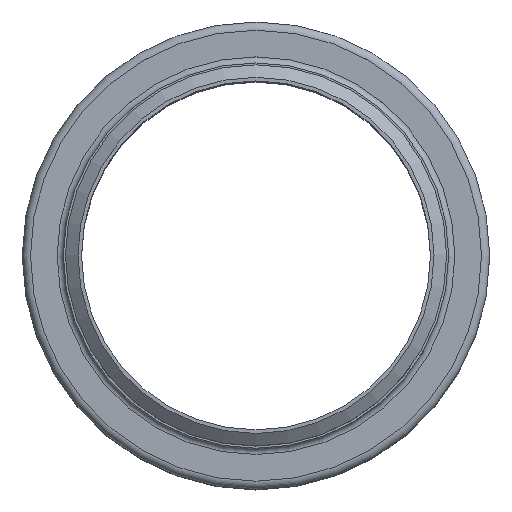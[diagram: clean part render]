
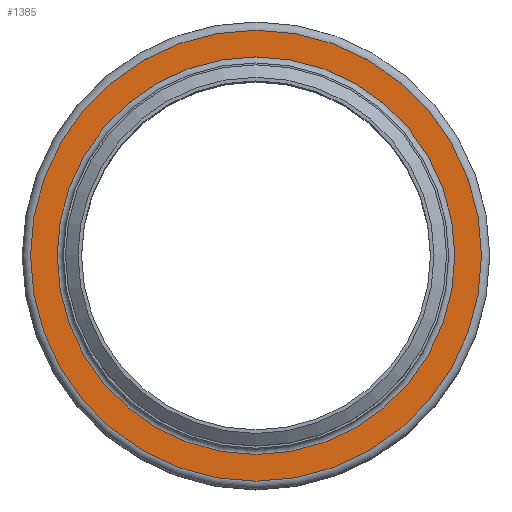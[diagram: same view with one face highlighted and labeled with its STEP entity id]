
A CAD part, top view. The second image highlights one B-rep face of the part: STEP entity #1385.
In plain terms, the highlighted planar face has unit normal (0, 0, 1).
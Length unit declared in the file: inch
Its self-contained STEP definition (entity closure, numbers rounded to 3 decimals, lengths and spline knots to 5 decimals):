
#155=FACE_BOUND('',#416,.T.);
#256=FACE_OUTER_BOUND('',#415,.T.);
#415=EDGE_LOOP('',(#1168));
#416=EDGE_LOOP('',(#1169));
#584=CIRCLE('',#1684,3.4555);
#585=CIRCLE('',#1686,3.9195);
#703=VERTEX_POINT('',#2631);
#704=VERTEX_POINT('',#2635);
#862=EDGE_CURVE('',#703,#703,#584,.T.);
#863=EDGE_CURVE('',#704,#704,#585,.T.);
#1168=ORIENTED_EDGE('',*,*,#863,.F.);
#1169=ORIENTED_EDGE('',*,*,#862,.T.);
#1284=PLANE('',#1685);
#1385=ADVANCED_FACE('',(#256,#155),#1284,.T.);
#1684=AXIS2_PLACEMENT_3D('',#2633,#2197,#2198);
#1685=AXIS2_PLACEMENT_3D('',#2634,#2199,#2200);
#1686=AXIS2_PLACEMENT_3D('',#2636,#2201,#2202);
#2197=DIRECTION('center_axis',(0.,0.,-1.));
#2198=DIRECTION('ref_axis',(1.,0.,0.));
#2199=DIRECTION('center_axis',(0.,0.,1.));
#2200=DIRECTION('ref_axis',(1.,0.,0.));
#2201=DIRECTION('center_axis',(0.,0.,-1.));
#2202=DIRECTION('ref_axis',(1.,0.,0.));
#2631=CARTESIAN_POINT('',(3.4555,0.,-0.107));
#2633=CARTESIAN_POINT('Origin',(0.,0.,-0.107));
#2634=CARTESIAN_POINT('Origin',(0.,3.9195,-0.107));
#2635=CARTESIAN_POINT('',(3.9195,0.,-0.107));
#2636=CARTESIAN_POINT('Origin',(0.,0.,-0.107));
